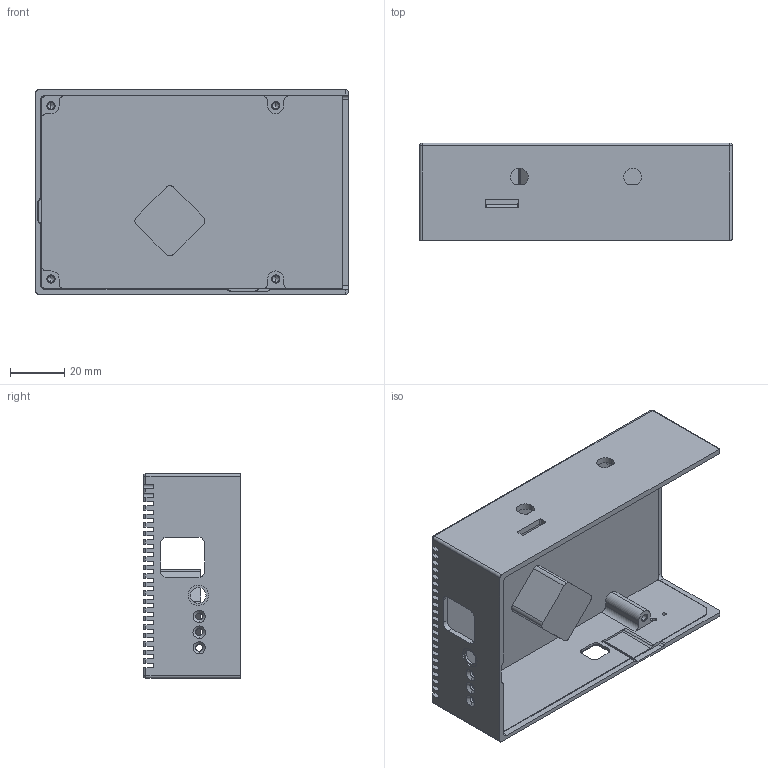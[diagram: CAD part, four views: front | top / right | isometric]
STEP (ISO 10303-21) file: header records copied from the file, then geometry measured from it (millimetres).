
FILE_DESCRIPTION (( 'STEP AP214' ), '1' );
FILE_NAME ('LubanCat 2 ¶¥¸Ç.STEP', '2022-11-28T02:00:15', ( '' ), ( '' ), 'SwSTEP 2.0', 'SolidWorks 2021', '' );
FILE_SCHEMA (( 'AUTOMOTIVE_DESIGN' ));
Length unit declared in the file: millimetre
Products named in the file (1): LubanCat 2 階裔
Bounding box: 115.45 x 36 x 75.6 mm (x, y, z)
Volume: 60649.9 mm3; surface area: 57130 mm2
Topology: 1 solids, 1 shells, 329 faces, 942 edges, 608 vertices
Faces by surface type: plane 153, cylinder 141, cone 22, bspline 9, sphere 4
Entity records: 10931 total; most frequent: CARTESIAN_POINT 2072, ORIENTED_EDGE 1860, DIRECTION 1840, EDGE_CURVE 930, AXIS2_PLACEMENT_3D 614, VECTOR 612, LINE 612, VERTEX_POINT 608
